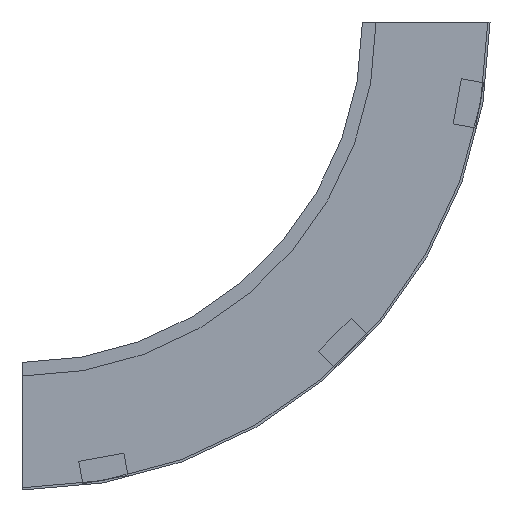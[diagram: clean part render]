
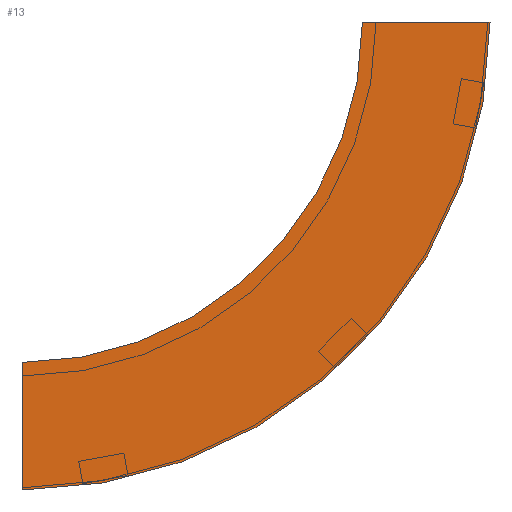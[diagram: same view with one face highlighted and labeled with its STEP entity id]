
A CAD part, left-side view. The second image highlights one B-rep face of the part: STEP entity #13.
In plain terms, the highlighted planar face has unit normal (-1, 0, 0) as drawn and (1, 0, 0) by its records, which use the part's own axes.
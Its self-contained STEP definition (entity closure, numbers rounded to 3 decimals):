
#4 = DIRECTION ( 'NONE',  ( 0., 1., 0. ) ) ;
#13 = ADVANCED_FACE ( 'NONE', ( #392 ), #63, .F. ) ;
#17 = VERTEX_POINT ( 'NONE', #259 ) ;
#19 = EDGE_CURVE ( 'NONE', #462, #380, #425, .T. ) ;
#22 = CARTESIAN_POINT ( 'NONE',  ( 0., 300., 0. ) ) ;
#57 = AXIS2_PLACEMENT_3D ( 'NONE', #355, #112, #430 ) ;
#63 = PLANE ( 'NONE',  #57 ) ;
#66 = AXIS2_PLACEMENT_3D ( 'NONE', #472, #323, #327 ) ;
#68 = CARTESIAN_POINT ( 'NONE',  ( 0., -112.5, 0. ) ) ;
#83 = CARTESIAN_POINT ( 'NONE',  ( 0., -112.5, 0. ) ) ;
#94 = EDGE_CURVE ( 'NONE', #292, #17, #191, .T. ) ;
#112 = DIRECTION ( 'NONE',  ( -1., 0., 0. ) ) ;
#170 = CARTESIAN_POINT ( 'NONE',  ( 0., 0., 0. ) ) ;
#191 = CIRCLE ( 'NONE', #66, 412.5 ) ;
#245 = EDGE_CURVE ( 'NONE', #292, #462, #491, .T. ) ;
#256 = DIRECTION ( 'NONE',  ( 0., -1., 0. ) ) ;
#257 = CARTESIAN_POINT ( 'NONE',  ( 0., 300., -412.5 ) ) ;
#259 = CARTESIAN_POINT ( 'NONE',  ( 0., 300., -412.5 ) ) ;
#260 = AXIS2_PLACEMENT_3D ( 'NONE', #22, #358, #256 ) ;
#292 = VERTEX_POINT ( 'NONE', #68 ) ;
#295 = VECTOR ( 'NONE', #4, 1000. ) ;
#323 = DIRECTION ( 'NONE',  ( 1., 0., 0. ) ) ;
#327 = DIRECTION ( 'NONE',  ( 0., -1., 0. ) ) ;
#355 = CARTESIAN_POINT ( 'NONE',  ( 0., -112.5, 0. ) ) ;
#358 = DIRECTION ( 'NONE',  ( 1., 0., 0. ) ) ;
#378 = EDGE_CURVE ( 'NONE', #17, #380, #474, .T. ) ;
#380 = VERTEX_POINT ( 'NONE', #399 ) ;
#384 = EDGE_LOOP ( 'NONE', ( #417, #424, #480, #435 ) ) ;
#392 = FACE_OUTER_BOUND ( 'NONE', #384, .T. ) ;
#399 = CARTESIAN_POINT ( 'NONE',  ( 0., 300., -300. ) ) ;
#417 = ORIENTED_EDGE ( 'NONE', *, *, #19, .F. ) ;
#424 = ORIENTED_EDGE ( 'NONE', *, *, #245, .F. ) ;
#425 = CIRCLE ( 'NONE', #260, 300. ) ;
#430 = DIRECTION ( 'NONE',  ( 0., 0., 1. ) ) ;
#435 = ORIENTED_EDGE ( 'NONE', *, *, #378, .T. ) ;
#436 = DIRECTION ( 'NONE',  ( 0., 0., 1. ) ) ;
#439 = VECTOR ( 'NONE', #436, 1000. ) ;
#462 = VERTEX_POINT ( 'NONE', #170 ) ;
#472 = CARTESIAN_POINT ( 'NONE',  ( 0., 300., 0. ) ) ;
#474 = LINE ( 'NONE', #257, #439 ) ;
#480 = ORIENTED_EDGE ( 'NONE', *, *, #94, .T. ) ;
#491 = LINE ( 'NONE', #83, #295 ) ;
